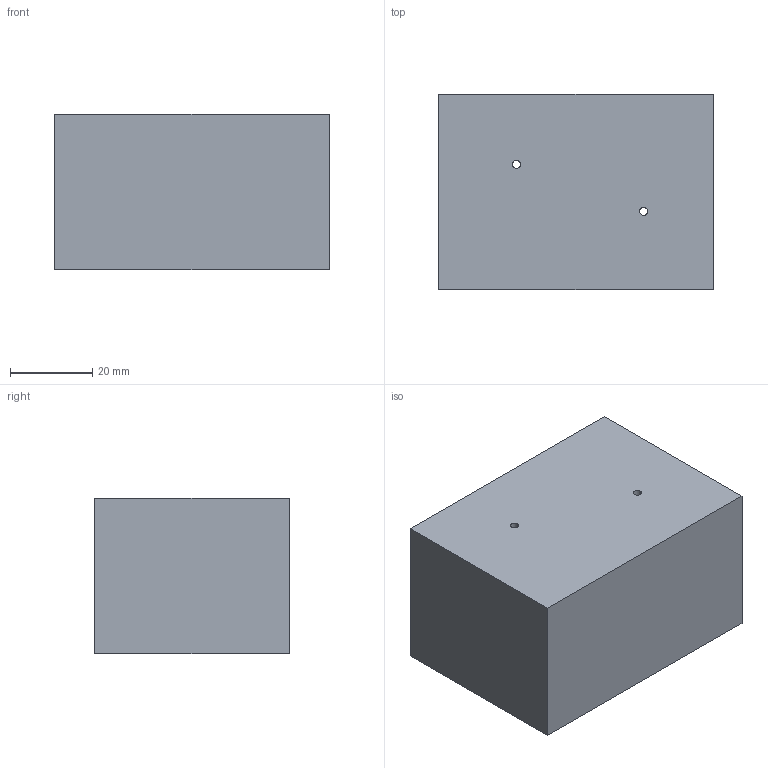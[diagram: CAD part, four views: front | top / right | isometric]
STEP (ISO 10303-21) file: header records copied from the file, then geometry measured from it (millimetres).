
FILE_DESCRIPTION (( 'STEP AP203' ), '1' );
FILE_NAME ('FT60ES09.STEP', '2026-06-26T01:14:05', ( 'USER' ), ( '' ), 'SwSTEP 2.0', 'SolidWorks 2023', '' );
FILE_SCHEMA (( 'CONFIG_CONTROL_DESIGN' ));
Length unit declared in the file: millimetre
Products named in the file (1): FT60ES09
Bounding box: 67 x 47.5 x 38 mm (x, y, z)
Volume: 95563.6 mm3; surface area: 19064.5 mm2
Topology: 1 solids, 1 shells, 40 faces, 95 edges, 55 vertices
Faces by surface type: cylinder 22, plane 10, cone 8
Entity records: 1338 total; most frequent: CARTESIAN_POINT 344, DIRECTION 192, ORIENTED_EDGE 190, EDGE_CURVE 95, AXIS2_PLACEMENT_3D 75, VERTEX_POINT 55, EDGE_LOOP 48, LINE 42
